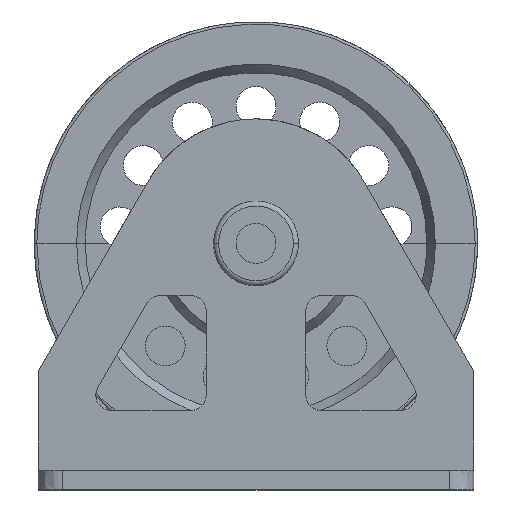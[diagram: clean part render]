
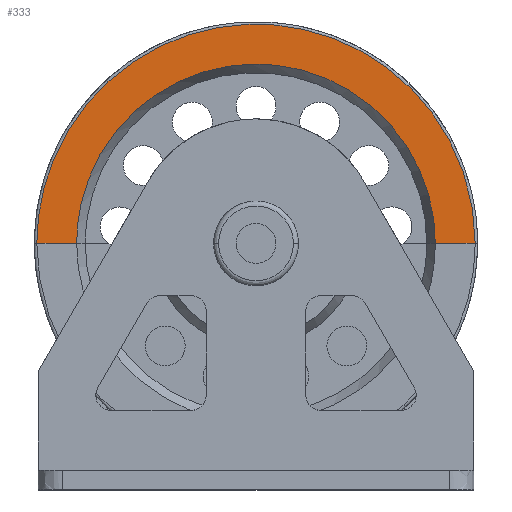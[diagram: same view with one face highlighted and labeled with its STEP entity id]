
A CAD part, left-side view. The second image highlights one B-rep face of the part: STEP entity #333.
In plain terms, the highlighted free-form (B-spline) face has degree [2, 1] with [5, 2] control points.
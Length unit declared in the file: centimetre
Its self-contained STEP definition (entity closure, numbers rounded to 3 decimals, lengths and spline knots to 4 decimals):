
#333=ADVANCED_FACE($,(#841),#5228,.T.);
#841=FACE_OUTER_BOUND($,#1287,.T.);
#1287=EDGE_LOOP($,(#2421,#2422,#2423,#2424));
#2421=ORIENTED_EDGE($,*,*,#4025,.T.);
#2422=ORIENTED_EDGE($,*,*,#3915,.F.);
#2423=ORIENTED_EDGE($,*,*,#3935,.F.);
#2424=ORIENTED_EDGE($,*,*,#3934,.T.);
#3915=EDGE_CURVE($,#4701,#4753,#15566,.T.);
#3934=EDGE_CURVE($,#4710,#4764,#15579,.T.);
#3935=EDGE_CURVE($,#4710,#4701,#5645,.T.);
#4025=EDGE_CURVE($,#4764,#4753,#5677,.T.);
#4701=VERTEX_POINT($,#10805);
#4710=VERTEX_POINT($,#10814);
#4753=VERTEX_POINT($,#10857);
#4764=VERTEX_POINT($,#10868);
#5228=(
BOUNDED_SURFACE()
B_SPLINE_SURFACE(2,1,((#10211,#10212),(#10213,#10214),(#10215,#10216),(#10217,
#10218),(#10219,#10220)),.UNSPECIFIED.,.F.,.F.,.F.)
B_SPLINE_SURFACE_WITH_KNOTS((3,2,3),(2,2),(0.,1.5708,3.1416),
(116.,132.),.UNSPECIFIED.)
GEOMETRIC_REPRESENTATION_ITEM()
RATIONAL_B_SPLINE_SURFACE(((1.,1.),(0.707,0.707),
(1.,1.),(0.707,0.707),(1.,1.)))
REPRESENTATION_ITEM($)
SURFACE()
);
#5645=B_SPLINE_CURVE_WITH_KNOTS($,1,(#9457,#9458),.UNSPECIFIED.,.F.,.F.,
(2,2),(116.,132.),.UNSPECIFIED.);
#5677=B_SPLINE_CURVE_WITH_KNOTS($,1,(#9795,#9796),.UNSPECIFIED.,.F.,.F.,
(2,2),(116.,132.),.UNSPECIFIED.);
#9381=CARTESIAN_POINT($,(-36.677,15.5,99.));
#9382=CARTESIAN_POINT($,(-36.677,15.5,171.));
#9383=CARTESIAN_POINT($,(-36.677,87.5,171.));
#9384=CARTESIAN_POINT($,(-36.677,159.5,171.));
#9385=CARTESIAN_POINT($,(-36.677,159.5,99.));
#9452=CARTESIAN_POINT($,(-36.677,-0.5,99.));
#9453=CARTESIAN_POINT($,(-36.677,-0.5,187.));
#9454=CARTESIAN_POINT($,(-36.677,87.5,187.));
#9455=CARTESIAN_POINT($,(-36.677,175.5,187.));
#9456=CARTESIAN_POINT($,(-36.677,175.5,99.));
#9457=CARTESIAN_POINT($,(-36.677,-0.5,99.));
#9458=CARTESIAN_POINT($,(-36.677,15.5,99.));
#9795=CARTESIAN_POINT($,(-36.677,175.5,99.));
#9796=CARTESIAN_POINT($,(-36.677,159.5,99.));
#10211=CARTESIAN_POINT($,(-36.677,-0.5,99.));
#10212=CARTESIAN_POINT($,(-36.677,15.5,99.));
#10213=CARTESIAN_POINT($,(-36.677,-0.5,187.));
#10214=CARTESIAN_POINT($,(-36.677,15.5,171.));
#10215=CARTESIAN_POINT($,(-36.677,87.5,187.));
#10216=CARTESIAN_POINT($,(-36.677,87.5,171.));
#10217=CARTESIAN_POINT($,(-36.677,175.5,187.));
#10218=CARTESIAN_POINT($,(-36.677,159.5,171.));
#10219=CARTESIAN_POINT($,(-36.677,175.5,99.));
#10220=CARTESIAN_POINT($,(-36.677,159.5,99.));
#10805=CARTESIAN_POINT($,(-36.677,15.5,99.));
#10814=CARTESIAN_POINT($,(-36.677,-0.5,99.));
#10857=CARTESIAN_POINT($,(-36.677,159.5,99.));
#10868=CARTESIAN_POINT($,(-36.677,175.5,99.));
#15566=(
BOUNDED_CURVE()
B_SPLINE_CURVE(2,(#9381,#9382,#9383,#9384,#9385),.UNSPECIFIED.,.F.,.F.)
B_SPLINE_CURVE_WITH_KNOTS((3,2,3),(0.,1.5708,3.1416),
.UNSPECIFIED.)
CURVE()
GEOMETRIC_REPRESENTATION_ITEM()
RATIONAL_B_SPLINE_CURVE((1.,0.707,1.,0.707,1.))
REPRESENTATION_ITEM($)
);
#15579=(
BOUNDED_CURVE()
B_SPLINE_CURVE(2,(#9452,#9453,#9454,#9455,#9456),.UNSPECIFIED.,.F.,.F.)
B_SPLINE_CURVE_WITH_KNOTS((3,2,3),(0.,1.5708,3.1416),
.UNSPECIFIED.)
CURVE()
GEOMETRIC_REPRESENTATION_ITEM()
RATIONAL_B_SPLINE_CURVE((1.,0.707,1.,0.707,1.))
REPRESENTATION_ITEM($)
);
